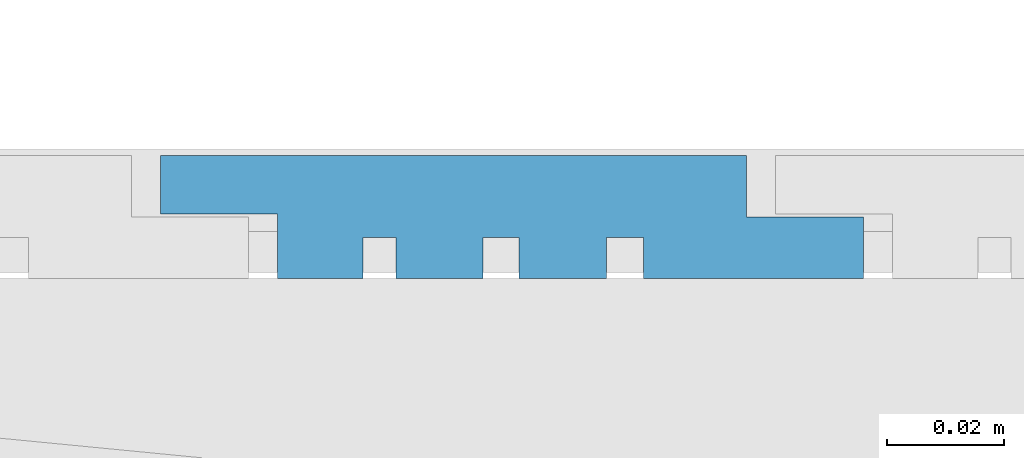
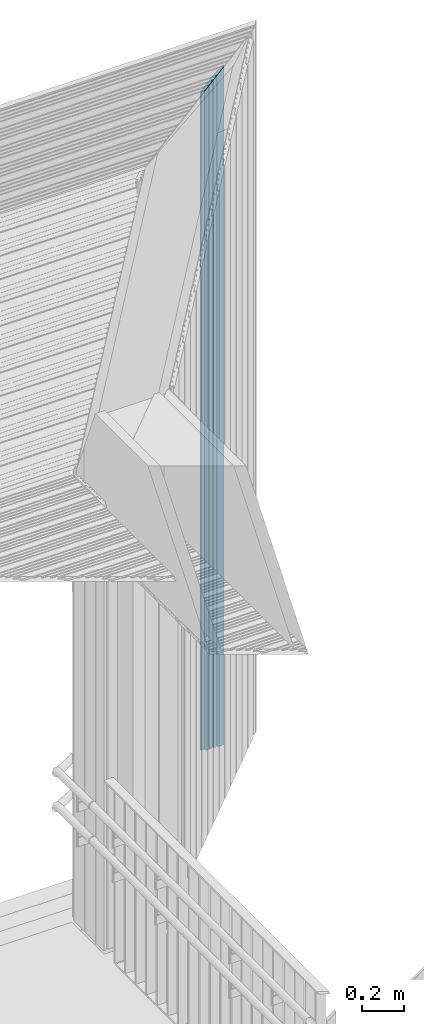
# One storey, part 145 of 418: 1 building element part, 1 element without a shape of its own.
"""IFC2X3 building model written with IfcOpenShell, lengths in millimetres."""

from ifc_helpers import new_model, entity, si_unit, converted_unit, derived_unit, money_unit, direction, frame, origin_with_axes, place, context, subcontext, project, spatial, polyline, outline, extrude, boolean, faceted_brep, material, type_object, element, aggregate, save


model = new_model("IFC2X3")

# Units and contexts
model_context = context("Model", 3, precision=0.01, world=origin_with_axes(), true_north=direction((0.0, 1.0)))
body_context = subcontext(model_context, "Body", "Model", "MODEL_VIEW")
ifc_project = project(units=[si_unit("LENGTHUNIT", "METRE", prefix="MILLI"), si_unit("AREAUNIT", "SQUARE_METRE"), si_unit("VOLUMEUNIT", "CUBIC_METRE"), converted_unit("PLANEANGLEUNIT", "DEGREE", entity("IfcPlaneAngleMeasure", 0.0174532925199), si_unit("PLANEANGLEUNIT", "RADIAN"), dimensions=[0, 0, 0, 0, 0, 0, 0]), si_unit("SOLIDANGLEUNIT", "STERADIAN"), money_unit("EUR"), converted_unit("TIMEUNIT", "Year", entity("IfcTimeMeasure", 31556926.0), si_unit("TIMEUNIT", "SECOND"), dimensions=[0, 0, 1, 0, 0, 0, 0]), si_unit("MASSUNIT", "GRAM", prefix="KILO"), si_unit("THERMODYNAMICTEMPERATUREUNIT", "DEGREE_CELSIUS"), si_unit("LUMINOUSINTENSITYUNIT", "LUMEN"), si_unit("ENERGYUNIT", "JOULE", prefix="MEGA"), derived_unit("THERMALCONDUCTANCEUNIT", [(si_unit("POWERUNIT", "WATT"), 1), (si_unit("LENGTHUNIT", "METRE"), -1), (si_unit("THERMODYNAMICTEMPERATUREUNIT", "KELVIN"), -1)]), derived_unit("SPECIFICHEATCAPACITYUNIT", [(si_unit("ENERGYUNIT", "JOULE"), 1), (si_unit("MASSUNIT", "GRAM", prefix="KILO"), -1), (si_unit("THERMODYNAMICTEMPERATUREUNIT", "KELVIN"), -1)]), derived_unit("MASSDENSITYUNIT", [(si_unit("MASSUNIT", "GRAM", prefix="KILO"), 1), (si_unit("VOLUMEUNIT", "CUBIC_METRE"), -1)])], contexts=[model_context])

# Site, building, storey
site_placement = place(None, origin_with_axes())
site = spatial("IfcSite", under=ifc_project, at=site_placement, Name="Paldiski mnt 245/1, Tallinn, Harjumaa", CompositionType="COMPLEX")
building_placement = place(site_placement, origin_with_axes())
building = spatial("IfcBuilding", under=site, at=building_placement, Name="RKAS Hoone üldnimetus (kasutust iseloomustav) -> IFC Project Manager -> SOLIBRI", CompositionType="ELEMENT")
storey_placement = place(building_placement, origin_with_axes())
storey = spatial("IfcBuildingStorey", under=building, at=storey_placement, Name="Esimene korrus", CompositionType="ELEMENT", Elevation=0.0)

# Proxy, building element part
building_element_proxy_type = type_object("IfcBuildingElementProxyType", Name="Laudis esiprofiil_01 21 x 622", PredefinedType="NOTDEFINED")
proxy_placement = place(storey_placement, frame((-46724.4601459, 39788.252735, 0.0), z_axis=(0.0, 0.0, 1.0), x_axis=(0.0, -1.0, 0.0)))
proxy = element("IfcBuildingElementProxy", 1, at=proxy_placement, inside=storey, type_object=building_element_proxy_type, Name="Varikatus")
ifc_material = material(Name="Laudis 5072 Honka 45 horisontaalne raastas")
building_element_part_placement = place(proxy_placement, origin_with_axes())
building_element_part = element("IfcBuildingElementPart", 2, at=building_element_part_placement, material=ifc_material, Name="Laudis 5072 Honka 45 horisontaalne raastas", context=body_context, shape_type="CSG", body=[
    boolean("DIFFERENCE", boolean("DIFFERENCE", boolean("DIFFERENCE", boolean("DIFFERENCE", boolean("DIFFERENCE", boolean("DIFFERENCE", extrude(outline(polyline([(3.20348192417e-08, -205.971430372), (-10.5000010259, -205.971430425), (-10.5000005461, -185.971429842), (-20.9999998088, -185.971430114), (-21.0000010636, -223.497524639), (-14.0000005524, -223.497525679), (-14.0000003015, -229.860022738), (-20.99999981, -229.860022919), (-20.9999998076, -244.79914009), (-14.0000002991, -244.799139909), (-14.0000007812, -250.926080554), (-21.0000002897, -250.926080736), (-21.0000013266, -265.754573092), (-14.0000008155, -265.754574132), (-14.0000015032, -271.395242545), (-21.0000010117, -271.395242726), (-21.0000007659, -285.971429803), (-10.000001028, -285.971430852), (-10.0000002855, -305.971430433), (-7.63172636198e-07, -305.971430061), (3.20348192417e-08, -205.971430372)])), frame((0.0, 0.0, 0.0), z_axis=(0.0, 0.0, -1.0), x_axis=(-1.0, 0.0, 0.0)), (0.0, 0.0, -1.0), 4086.15997799), faceted_brep([(20.9999998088, -395.971430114, 3689.02857107), (10.5000005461, -395.971429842, 3689.02857134), (10.5000005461, -395.971429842, 4086.15997799), (20.9999998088, -395.971430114, 4086.15997799), (10.5000010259, -415.971430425, 3669.02857076), (21.0000010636, -433.497524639, 3651.50247655), (14.0000005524, -433.497525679, 3651.50247551), (14.0000003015, -439.860022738, 3645.13997845), (20.99999981, -439.860022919, 3645.13997827), (20.9999998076, -454.79914009, 3630.20086109), (14.0000002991, -454.799139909, 3630.20086128), (14.0000007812, -460.926080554, 3624.07392063), (21.0000002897, -460.926080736, 3624.07392045), (21.0000013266, -475.754573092, 3609.24542809), (14.0000008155, -475.754574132, 3609.24542705), (14.0000015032, -481.395242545, 3603.60475864), (21.0000010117, -481.395242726, 3603.60475846), (21.0000007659, -495.971429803, 3589.02857138), (10.000001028, -495.971430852, 3589.02857033), (10.0000002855, -515.971430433, 3569.02857075), (7.6316553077e-07, -515.971430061, 3569.02857112), (-3.20383719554e-08, -415.971430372, 3669.02857081), (10.5000010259, -415.971430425, 4086.15997799), (-3.20383719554e-08, -415.971430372, 4086.15997799), (7.6316553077e-07, -515.971430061, 4086.15997799), (10.0000002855, -515.971430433, 4086.15997799), (10.000001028, -495.971430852, 4086.15997799), (21.0000007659, -495.971429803, 4086.15997799), (21.0000010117, -481.395242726, 4086.15997799), (14.0000015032, -481.395242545, 4086.15997799), (14.0000008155, -475.754574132, 4086.15997799), (21.0000013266, -475.754573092, 4086.15997799), (21.0000002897, -460.926080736, 4086.15997799), (14.0000007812, -460.926080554, 4086.15997799), (14.0000002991, -454.799139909, 4086.15997799), (20.9999998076, -454.79914009, 4086.15997799), (20.99999981, -439.860022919, 4086.15997799), (14.0000003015, -439.860022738, 4086.15997799), (14.0000005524, -433.497525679, 4086.15997799), (21.0000010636, -433.497524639, 4086.15997799)], [[[0, 1, 2, 3]], [[4, 1, 0, 5, 6, 7, 8, 9, 10, 11, 12, 13, 14, 15, 16, 17, 18, 19, 20, 21]], [[1, 4, 22, 2]], [[22, 23, 24, 25, 26, 27, 28, 29, 30, 31, 32, 33, 34, 35, 36, 37, 38, 39, 3, 2]], [[5, 0, 3, 39]], [[6, 5, 39, 38]], [[7, 6, 38, 37]], [[8, 7, 37, 36]], [[9, 8, 36, 35]], [[10, 9, 35, 34]], [[11, 10, 34, 33]], [[12, 11, 33, 32]], [[13, 12, 32, 31]], [[14, 13, 31, 30]], [[15, 14, 30, 29]], [[16, 15, 29, 28]], [[17, 16, 28, 27]], [[18, 17, 27, 26]], [[19, 18, 26, 25]], [[20, 19, 25, 24]], [[21, 20, 24, 23]], [[4, 21, 23, 22]]])), faceted_brep([(20.9999998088, -500.971430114, 3584.02857107), (10.5000005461, -500.971429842, 3584.02857134), (10.5000005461, -500.971429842, 4086.15997799), (20.9999998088, -500.971430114, 4086.15997799), (10.5000010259, -520.971430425, 3564.02857076), (21.0000010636, -538.497524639, 3546.50247655), (14.0000005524, -538.497525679, 3546.50247551), (14.0000003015, -544.860022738, 3540.13997845), (20.99999981, -544.860022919, 3540.13997827), (20.9999998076, -559.79914009, 3525.20086109), (14.0000002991, -559.799139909, 3525.20086128), (14.0000007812, -565.926080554, 3519.07392063), (21.0000002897, -565.926080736, 3519.07392045), (21.0000013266, -580.754573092, 3504.24542809), (14.0000008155, -580.754574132, 3504.24542705), (14.0000015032, -586.395242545, 3498.60475864), (21.0000010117, -586.395242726, 3498.60475846), (21.0000007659, -600.971429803, 3484.02857138), (10.000001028, -600.971430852, 3484.02857033), (10.0000002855, -620.971430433, 3464.02857075), (7.63172636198e-07, -620.971430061, 3464.02857112), (-3.20383719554e-08, -520.971430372, 3564.02857081), (10.5000010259, -520.971430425, 4086.15997799), (-3.20383719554e-08, -520.971430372, 4086.15997799), (7.63172636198e-07, -620.971430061, 4086.15997799), (10.0000002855, -620.971430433, 4086.15997799), (10.000001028, -600.971430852, 4086.15997799), (21.0000007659, -600.971429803, 4086.15997799), (21.0000010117, -586.395242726, 4086.15997799), (14.0000015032, -586.395242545, 4086.15997799), (14.0000008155, -580.754574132, 4086.15997799), (21.0000013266, -580.754573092, 4086.15997799), (21.0000002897, -565.926080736, 4086.15997799), (14.0000007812, -565.926080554, 4086.15997799), (14.0000002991, -559.799139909, 4086.15997799), (20.9999998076, -559.79914009, 4086.15997799), (20.99999981, -544.860022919, 4086.15997799), (14.0000003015, -544.860022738, 4086.15997799), (14.0000005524, -538.497525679, 4086.15997799), (21.0000010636, -538.497524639, 4086.15997799)], [[[0, 1, 2, 3]], [[4, 1, 0, 5, 6, 7, 8, 9, 10, 11, 12, 13, 14, 15, 16, 17, 18, 19, 20, 21]], [[1, 4, 22, 2]], [[22, 23, 24, 25, 26, 27, 28, 29, 30, 31, 32, 33, 34, 35, 36, 37, 38, 39, 3, 2]], [[5, 0, 3, 39]], [[6, 5, 39, 38]], [[7, 6, 38, 37]], [[8, 7, 37, 36]], [[9, 8, 36, 35]], [[10, 9, 35, 34]], [[11, 10, 34, 33]], [[12, 11, 33, 32]], [[13, 12, 32, 31]], [[14, 13, 31, 30]], [[15, 14, 30, 29]], [[16, 15, 29, 28]], [[17, 16, 28, 27]], [[18, 17, 27, 26]], [[19, 18, 26, 25]], [[20, 19, 25, 24]], [[21, 20, 24, 23]], [[4, 21, 23, 22]]])), faceted_brep([(20.9999998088, -185.971430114, 3899.02857107), (10.5000005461, -185.971429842, 3899.02857134), (10.5000005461, -185.971429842, 4086.15997799), (20.9999998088, -185.971430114, 4086.15997799), (10.5000010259, -205.971430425, 3879.02857076), (21.0000010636, -223.497524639, 3861.50247655), (14.0000005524, -223.497525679, 3861.50247551), (14.0000003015, -229.860022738, 3855.13997845), (20.99999981, -229.860022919, 3855.13997827), (20.9999998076, -244.79914009, 3840.20086109), (14.0000002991, -244.799139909, 3840.20086128), (14.0000007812, -250.926080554, 3834.07392063), (21.0000002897, -250.926080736, 3834.07392045), (21.0000013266, -265.754573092, 3819.24542809), (14.0000008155, -265.754574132, 3819.24542705), (14.0000015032, -271.395242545, 3813.60475864), (21.0000010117, -271.395242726, 3813.60475846), (21.0000007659, -285.971429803, 3799.02857138), (10.000001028, -285.971430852, 3799.02857033), (10.0000002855, -305.971430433, 3779.02857075), (7.63172636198e-07, -305.971430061, 3779.02857112), (-3.20383719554e-08, -205.971430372, 3879.02857081), (10.5000010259, -205.971430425, 4086.15997799), (-3.20383719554e-08, -205.971430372, 4086.15997799), (7.63172636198e-07, -305.971430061, 4086.15997799), (10.0000002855, -305.971430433, 4086.15997799), (10.000001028, -285.971430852, 4086.15997799), (21.0000007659, -285.971429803, 4086.15997799), (21.0000010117, -271.395242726, 4086.15997799), (14.0000015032, -271.395242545, 4086.15997799), (14.0000008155, -265.754574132, 4086.15997799), (21.0000013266, -265.754573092, 4086.15997799), (21.0000002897, -250.926080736, 4086.15997799), (14.0000007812, -250.926080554, 4086.15997799), (14.0000002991, -244.799139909, 4086.15997799), (20.9999998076, -244.79914009, 4086.15997799), (20.99999981, -229.860022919, 4086.15997799), (14.0000003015, -229.860022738, 4086.15997799), (14.0000005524, -223.497525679, 4086.15997799), (21.0000010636, -223.497524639, 4086.15997799)], [[[0, 1, 2, 3]], [[4, 1, 0, 5, 6, 7, 8, 9, 10, 11, 12, 13, 14, 15, 16, 17, 18, 19, 20, 21]], [[1, 4, 22, 2]], [[22, 23, 24, 25, 26, 27, 28, 29, 30, 31, 32, 33, 34, 35, 36, 37, 38, 39, 3, 2]], [[5, 0, 3, 39]], [[6, 5, 39, 38]], [[7, 6, 38, 37]], [[8, 7, 37, 36]], [[9, 8, 36, 35]], [[10, 9, 35, 34]], [[11, 10, 34, 33]], [[12, 11, 33, 32]], [[13, 12, 32, 31]], [[14, 13, 31, 30]], [[15, 14, 30, 29]], [[16, 15, 29, 28]], [[17, 16, 28, 27]], [[18, 17, 27, 26]], [[19, 18, 26, 25]], [[20, 19, 25, 24]], [[21, 20, 24, 23]], [[4, 21, 23, 22]]])), faceted_brep([(20.9999998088, -290.971430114, 3794.02857107), (10.5000005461, -290.971429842, 3794.02857134), (10.5000005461, -290.971429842, 4086.15997799), (20.9999998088, -290.971430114, 4086.15997799), (10.5000010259, -310.971430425, 3774.02857076), (21.0000010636, -328.497524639, 3756.50247655), (14.0000005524, -328.497525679, 3756.50247551), (14.0000003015, -334.860022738, 3750.13997845), (20.99999981, -334.860022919, 3750.13997827), (20.9999998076, -349.79914009, 3735.20086109), (14.0000002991, -349.799139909, 3735.20086128), (14.0000007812, -355.926080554, 3729.07392063), (21.0000002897, -355.926080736, 3729.07392045), (21.0000013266, -370.754573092, 3714.24542809), (14.0000008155, -370.754574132, 3714.24542705), (14.0000015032, -376.395242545, 3708.60475864), (21.0000010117, -376.395242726, 3708.60475846), (21.0000007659, -390.971429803, 3694.02857138), (10.000001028, -390.971430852, 3694.02857033), (10.0000002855, -410.971430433, 3674.02857075), (7.6316553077e-07, -410.971430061, 3674.02857112), (-3.20383719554e-08, -310.971430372, 3774.02857081), (10.5000010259, -310.971430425, 4086.15997799), (-3.20383719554e-08, -310.971430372, 4086.15997799), (7.6316553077e-07, -410.971430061, 4086.15997799), (10.0000002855, -410.971430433, 4086.15997799), (10.000001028, -390.971430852, 4086.15997799), (21.0000007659, -390.971429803, 4086.15997799), (21.0000010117, -376.395242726, 4086.15997799), (14.0000015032, -376.395242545, 4086.15997799), (14.0000008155, -370.754574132, 4086.15997799), (21.0000013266, -370.754573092, 4086.15997799), (21.0000002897, -355.926080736, 4086.15997799), (14.0000007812, -355.926080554, 4086.15997799), (14.0000002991, -349.799139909, 4086.15997799), (20.9999998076, -349.79914009, 4086.15997799), (20.99999981, -334.860022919, 4086.15997799), (14.0000003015, -334.860022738, 4086.15997799), (14.0000005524, -328.497525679, 4086.15997799), (21.0000010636, -328.497524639, 4086.15997799)], [[[0, 1, 2, 3]], [[4, 1, 0, 5, 6, 7, 8, 9, 10, 11, 12, 13, 14, 15, 16, 17, 18, 19, 20, 21]], [[1, 4, 22, 2]], [[22, 23, 24, 25, 26, 27, 28, 29, 30, 31, 32, 33, 34, 35, 36, 37, 38, 39, 3, 2]], [[5, 0, 3, 39]], [[6, 5, 39, 38]], [[7, 6, 38, 37]], [[8, 7, 37, 36]], [[9, 8, 36, 35]], [[10, 9, 35, 34]], [[11, 10, 34, 33]], [[12, 11, 33, 32]], [[13, 12, 32, 31]], [[14, 13, 31, 30]], [[15, 14, 30, 29]], [[16, 15, 29, 28]], [[17, 16, 28, 27]], [[18, 17, 27, 26]], [[19, 18, 26, 25]], [[20, 19, 25, 24]], [[21, 20, 24, 23]], [[4, 21, 23, 22]]])), faceted_brep([(14.0000008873, -12.860024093, 4072.13997709), (-8.29203372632e-09, 1.13997680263, 4086.13997799), (-8.29203372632e-09, 1.13997680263, 4086.15997799), (14.0000008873, -12.860024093, 4086.15997799), (1.4387921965e-06, -95.9714304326, 3989.02857075), (14.0000008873, -19.8600231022, 4065.13997808), (20.9999998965, -19.8600231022, 4065.13997808), (20.9999998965, -34.7991407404, 4050.20086044), (14.0000008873, -34.7991393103, 4050.20086187), (14.0000008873, -40.9260801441, 4044.07392104), (20.9999998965, -40.9260801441, 4044.07392104), (21.0000013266, -55.7545733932, 4029.24542779), (14.0000008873, -55.7545748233, 4029.24542636), (14.0000008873, -61.3952431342, 4023.60475805), (21.0000013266, -61.3952431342, 4023.60475805), (21.0000013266, -75.9714304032, 4009.02857078), (10.0000014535, -75.9714304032, 4009.02857078), (10.0000000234, -95.9714304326, 3989.02857075), (1.4387921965e-06, -95.9714304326, 4086.15997799), (14.0000008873, -55.7545748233, 4086.15997799), (21.0000013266, -55.7545733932, 4086.15997799), (20.9999998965, -40.9260801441, 4086.15997799), (14.0000008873, -40.9260801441, 4086.15997799), (14.0000008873, -34.7991393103, 4086.15997799), (20.9999998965, -34.7991407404, 4086.15997799), (20.9999998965, -19.8600231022, 4086.15997799), (14.0000008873, -19.8600231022, 4086.15997799), (10.0000000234, -95.9714304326, 4086.15997799), (10.0000014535, -75.9714304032, 4086.15997799), (21.0000013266, -75.9714304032, 4086.15997799), (21.0000013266, -61.3952431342, 4086.15997799), (14.0000008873, -61.3952431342, 4086.15997799)], [[[0, 1, 2, 3]], [[4, 1, 0, 5, 6, 7, 8, 9, 10, 11, 12, 13, 14, 15, 16, 17]], [[1, 4, 18, 2]], [[19, 20, 21, 22, 23, 24, 25, 26, 3, 2, 18, 27, 28, 29, 30, 31]], [[5, 0, 3, 26]], [[6, 5, 26, 25]], [[7, 6, 25, 24]], [[8, 7, 24, 23]], [[9, 8, 23, 22]], [[10, 9, 22, 21]], [[11, 10, 21, 20]], [[12, 11, 20, 19]], [[13, 12, 19, 31]], [[14, 13, 31, 30]], [[15, 14, 30, 29]], [[16, 15, 29, 28]], [[17, 16, 28, 27]], [[4, 17, 27, 18]]])), faceted_brep([(20.9999998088, -80.9714301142, 4004.02857107), (10.5000005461, -80.9714298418, 4004.02857134), (10.5000005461, -80.9714298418, 4086.15997799), (20.9999998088, -80.9714301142, 4086.15997799), (10.5000010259, -100.971430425, 3984.02857076), (21.0000010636, -118.497524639, 3966.50247655), (14.0000005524, -118.497525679, 3966.50247551), (14.0000003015, -124.860022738, 3960.13997845), (20.99999981, -124.860022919, 3960.13997827), (20.9999998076, -139.79914009, 3945.20086109), (14.0000002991, -139.799139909, 3945.20086128), (14.0000007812, -145.926080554, 3939.07392063), (21.0000002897, -145.926080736, 3939.07392045), (21.0000013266, -160.754573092, 3924.24542809), (14.0000008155, -160.754574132, 3924.24542705), (14.0000015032, -166.395242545, 3918.60475864), (21.0000010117, -166.395242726, 3918.60475846), (21.0000007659, -180.971429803, 3904.02857138), (10.000001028, -180.971430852, 3904.02857033), (10.0000002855, -200.971430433, 3884.02857075), (7.6316553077e-07, -200.971430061, 3884.02857112), (-3.20383719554e-08, -100.971430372, 3984.02857081), (10.5000010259, -100.971430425, 4086.15997799), (-3.20383719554e-08, -100.971430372, 4086.15997799), (7.6316553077e-07, -200.971430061, 4086.15997799), (10.0000002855, -200.971430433, 4086.15997799), (10.000001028, -180.971430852, 4086.15997799), (21.0000007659, -180.971429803, 4086.15997799), (21.0000010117, -166.395242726, 4086.15997799), (14.0000015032, -166.395242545, 4086.15997799), (14.0000008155, -160.754574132, 4086.15997799), (21.0000013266, -160.754573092, 4086.15997799), (21.0000002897, -145.926080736, 4086.15997799), (14.0000007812, -145.926080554, 4086.15997799), (14.0000002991, -139.799139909, 4086.15997799), (20.9999998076, -139.79914009, 4086.15997799), (20.99999981, -124.860022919, 4086.15997799), (14.0000003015, -124.860022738, 4086.15997799), (14.0000005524, -118.497525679, 4086.15997799), (21.0000010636, -118.497524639, 4086.15997799)], [[[0, 1, 2, 3]], [[4, 1, 0, 5, 6, 7, 8, 9, 10, 11, 12, 13, 14, 15, 16, 17, 18, 19, 20, 21]], [[1, 4, 22, 2]], [[22, 23, 24, 25, 26, 27, 28, 29, 30, 31, 32, 33, 34, 35, 36, 37, 38, 39, 3, 2]], [[5, 0, 3, 39]], [[6, 5, 39, 38]], [[7, 6, 38, 37]], [[8, 7, 37, 36]], [[9, 8, 36, 35]], [[10, 9, 35, 34]], [[11, 10, 34, 33]], [[12, 11, 33, 32]], [[13, 12, 32, 31]], [[14, 13, 31, 30]], [[15, 14, 30, 29]], [[16, 15, 29, 28]], [[17, 16, 28, 27]], [[18, 17, 27, 26]], [[19, 18, 26, 25]], [[20, 19, 25, 24]], [[21, 20, 24, 23]], [[4, 21, 23, 22]]])),
])
aggregate(proxy, [building_element_part])

save(model, "model.ifc")
